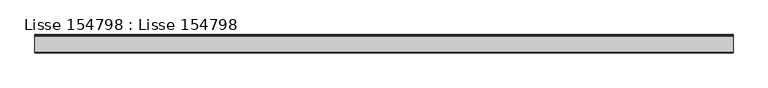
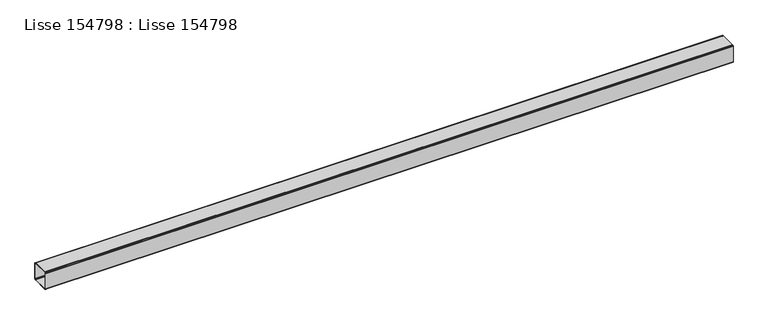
"""IFC4 building model written with IfcOpenShell, lengths in millimetres: beam geometry, Lisse 154798 : Lisse 154798."""

from ifc_helpers import new_model, si_unit, frame, origin, place, context, project, spatial, polyline, outline, extrude, source, transform, mapped, element, save


def lisse_154798_lisse_154798_789d9ca1(model_context):
    return source(origin(), model_context, "Body", "SweptSolid", [
        extrude(outline(polyline([(89.0, 7100.0), (1.0, 7100.0), (-2.0, 7100.8038476), (-4.1961524, 7103.0), (-5.0, 7106.0), (-5.0, 7194.0), (-4.1961524, 7197.0), (-2.0, 7199.1961524), (1.0, 7200.0), (89.0, 7200.0), (92.0, 7199.1961524), (94.1961524, 7197.0), (95.0, 7194.0), (95.0, 7106.0), (94.1961524, 7103.0), (92.0, 7100.8038476), (89.0, 7100.0)]), holes=[polyline([(87.0, 7196.0), (3.0, 7196.0), (1.0, 7195.4641016), (-0.4641016, 7194.0), (-1.0, 7192.0), (-1.0, 7108.0), (-0.4641016, 7106.0), (1.0, 7104.5358984), (3.0, 7104.0), (87.0, 7104.0), (89.0, 7104.5358984), (90.4641016, 7106.0), (91.0, 7108.0), (91.0, 7192.0), (90.4641016, 7194.0), (89.0, 7195.4641016), (87.0, 7196.0)])]), frame((3772.4999999, 0.0, 0.0), z_axis=(1.0, 0.0, 0.0), x_axis=(0.0, 1.0, 0.0)), (0.0, 0.0, 1.0), 3772.5),
    ])


if __name__ == "__main__":
    model = new_model("IFC4")
    model_context = context("Model", 3, world=origin())
    ifc_project = project(units=[si_unit("LENGTHUNIT", "METRE", prefix="MILLI")], contexts=[model_context])
    site = spatial("IfcSite", under=ifc_project)
    building = spatial("IfcBuilding", under=site)
    placement = place(None, origin())
    lisse_154798_lisse_154798_shape = lisse_154798_lisse_154798_789d9ca1(model_context)
    element("IfcBeam", 1, ObjectType="Lisse 154798 : Lisse 154798", at=placement, inside=building, context=model_context, shape_type="MappedRepresentation", body=[
        mapped(lisse_154798_lisse_154798_shape, transform((0.0, 0.0, 0.0), x_axis=(1.0, 0.0, 0.0), y_axis=(0.0, 1.0, 0.0), z_axis=(0.0, 0.0, 1.0))),
    ])
    save(model, "model.ifc")
